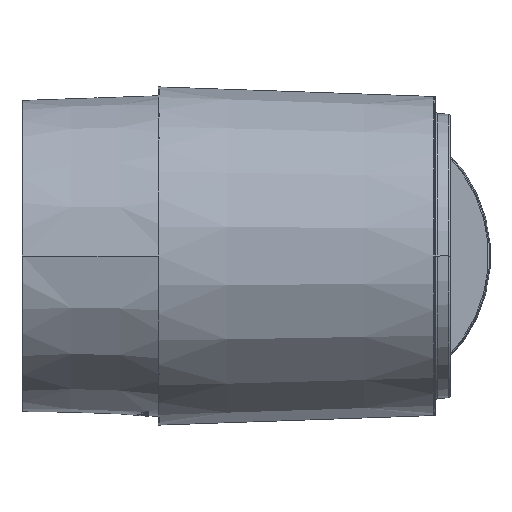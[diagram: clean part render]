
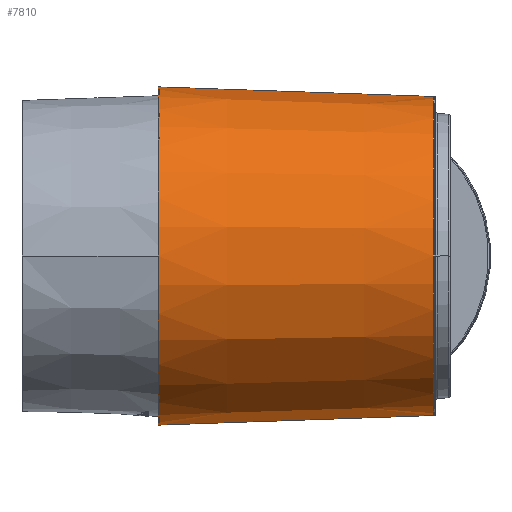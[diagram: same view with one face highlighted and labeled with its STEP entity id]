
A CAD part, left-side view. The second image highlights one B-rep face of the part: STEP entity #7810.
In plain terms, the highlighted conical face has half-angle 2 degrees and reference radius 44.696 mm.
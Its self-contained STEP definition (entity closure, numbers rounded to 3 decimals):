
#7044=CARTESIAN_POINT('',(-0.556,75.366,0.));
#7045=DIRECTION('',(0.,1.,0.));
#7046=DIRECTION('',(0.,0.,-1.));
#7047=AXIS2_PLACEMENT_3D('',#7044,#7045,#7046);
#7110=CARTESIAN_POINT('',(-0.556,0.655,0.));
#7111=DIRECTION('',(0.,-1.,0.));
#7112=DIRECTION('',(0.,0.,1.));
#7113=AXIS2_PLACEMENT_3D('',#7110,#7111,#7112);
#7115=DIRECTION('',(0.,0.999,-0.035));
#7116=VECTOR('',#7115,74.756);
#7117=CARTESIAN_POINT('',(-0.556,0.655,
-43.391));
#7118=LINE('',#7117,#7116);
#7119=DIRECTION('',(0.,-0.999,-0.035));
#7120=VECTOR('',#7119,74.756);
#7121=CARTESIAN_POINT('',(-0.556,75.366,46.));
#7122=LINE('',#7121,#7120);
#7711=CARTESIAN_POINT('',(-0.556,75.366,-46.));
#7712=CARTESIAN_POINT('',(-0.556,75.366,46.));
#7713=VERTEX_POINT('',#7711);
#7714=VERTEX_POINT('',#7712);
#7719=CARTESIAN_POINT('',(-0.556,0.655,
43.391));
#7720=CARTESIAN_POINT('',(-0.556,0.655,
-43.391));
#7721=VERTEX_POINT('',#7719);
#7722=VERTEX_POINT('',#7720);
#7796=CARTESIAN_POINT('',(-0.556,38.01,0.));
#7797=DIRECTION('',(0.,1.,0.));
#7798=DIRECTION('',(0.,0.,-1.));
#7799=AXIS2_PLACEMENT_3D('',#7796,#7797,#7798);
#7800=CONICAL_SURFACE('',#7799,44.696,2.);
#7802=ORIENTED_EDGE('',*,*,#7801,.T.);
#7804=ORIENTED_EDGE('',*,*,#7803,.T.);
#7805=ORIENTED_EDGE('',*,*,#7775,.T.);
#7807=ORIENTED_EDGE('',*,*,#7806,.T.);
#7808=EDGE_LOOP('',(#7802,#7804,#7805,#7807));
#7809=FACE_OUTER_BOUND('',#7808,.F.);
#7810=ADVANCED_FACE('',(#7809),#7800,.T.);
#7048=CIRCLE('',#7047,46.);
#7114=CIRCLE('',#7113,43.391);
#7775=EDGE_CURVE('',#7713,#7714,#7048,.T.);
#7801=EDGE_CURVE('',#7721,#7722,#7114,.T.);
#7803=EDGE_CURVE('',#7722,#7713,#7118,.T.);
#7806=EDGE_CURVE('',#7714,#7721,#7122,.T.);
